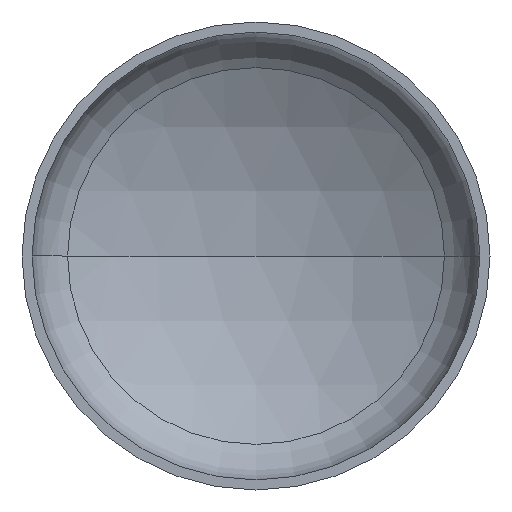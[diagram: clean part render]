
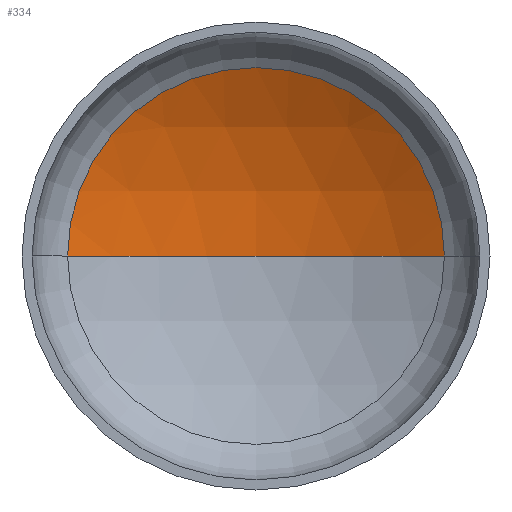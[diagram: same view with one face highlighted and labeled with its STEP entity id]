
A CAD part, front view. The second image highlights one B-rep face of the part: STEP entity #334.
In plain terms, the highlighted spherical face has radius 1520 mm.
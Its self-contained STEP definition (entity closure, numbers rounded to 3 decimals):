
#6 = AXIS2_PLACEMENT_3D ( 'NONE', #400, #80, #277 ) ;
#25 = AXIS2_PLACEMENT_3D ( 'NONE', #170, #363, #389 ) ;
#27 = AXIS2_PLACEMENT_3D ( 'NONE', #85, #282, #118 ) ;
#28 = AXIS2_PLACEMENT_3D ( 'NONE', #225, #393, #275 ) ;
#80 = DIRECTION ( 'NONE',  ( 0., 0., -1. ) ) ;
#85 = CARTESIAN_POINT ( 'NONE',  ( 0., 380.601, 0. ) ) ;
#109 = FACE_OUTER_BOUND ( 'NONE', #154, .T. ) ;
#110 = ORIENTED_EDGE ( 'NONE', *, *, #134, .F. ) ;
#113 = EDGE_CURVE ( 'NONE', #163, #279, #153, .T. ) ;
#118 = DIRECTION ( 'NONE',  ( 1., 0., 0. ) ) ;
#120 = CARTESIAN_POINT ( 'NONE',  ( 0., 587.108, 0. ) ) ;
#123 = EDGE_CURVE ( 'NONE', #304, #163, #221, .T. ) ;
#134 = EDGE_CURVE ( 'NONE', #304, #279, #160, .T. ) ;
#147 = CARTESIAN_POINT ( 'NONE',  ( -764.943, 380.601, 0. ) ) ;
#153 = CIRCLE ( 'NONE', #27, 764.943 ) ;
#154 = EDGE_LOOP ( 'NONE', ( #110, #186, #213 ) ) ;
#160 = CIRCLE ( 'NONE', #25, 1520. ) ;
#163 = VERTEX_POINT ( 'NONE', #332 ) ;
#170 = CARTESIAN_POINT ( 'NONE',  ( 0., -932.892, 0. ) ) ;
#186 = ORIENTED_EDGE ( 'NONE', *, *, #123, .T. ) ;
#191 = SPHERICAL_SURFACE ( 'NONE', #6, 1520. ) ;
#213 = ORIENTED_EDGE ( 'NONE', *, *, #113, .T. ) ;
#221 = CIRCLE ( 'NONE', #28, 1520. ) ;
#225 = CARTESIAN_POINT ( 'NONE',  ( 0., -932.892, 0. ) ) ;
#275 = DIRECTION ( 'NONE',  ( -1., 0., 0. ) ) ;
#277 = DIRECTION ( 'NONE',  ( -1., 0., 0. ) ) ;
#279 = VERTEX_POINT ( 'NONE', #147 ) ;
#282 = DIRECTION ( 'NONE',  ( 0., -1., 0. ) ) ;
#304 = VERTEX_POINT ( 'NONE', #120 ) ;
#332 = CARTESIAN_POINT ( 'NONE',  ( 764.943, 380.601, 0. ) ) ;
#334 = ADVANCED_FACE ( 'NONE', ( #109 ), #191, .F. ) ;
#363 = DIRECTION ( 'NONE',  ( 0., 0., 1. ) ) ;
#389 = DIRECTION ( 'NONE',  ( 1., 0., 0. ) ) ;
#393 = DIRECTION ( 'NONE',  ( 0., 0., -1. ) ) ;
#400 = CARTESIAN_POINT ( 'NONE',  ( 0., -932.892, 0. ) ) ;
